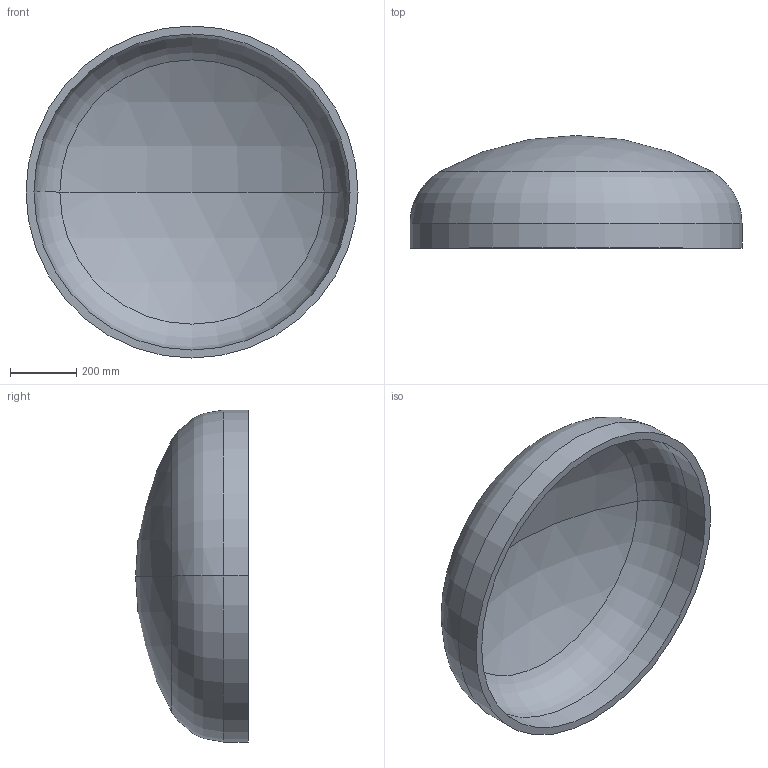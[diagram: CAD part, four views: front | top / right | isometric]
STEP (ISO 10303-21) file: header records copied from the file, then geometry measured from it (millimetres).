
FILE_DESCRIPTION (( 'STEP AP203' ), '1' );
FILE_NAME ('DIN 28013 Korbbogenform_-_Boden DIN 28013 - 1000 x 75 - I - s=24.step', '2016-07-01T08:45:01', ( '' ), ( '' ), 'SwSTEP 2.0', 'SolidWorks 2013', '' );
FILE_SCHEMA (( 'CONFIG_CONTROL_DESIGN' ));
Length unit declared in the file: millimetre
Products named in the file (1): DIN 28013 Korbbogenform_-_Boden DIN 28013 - 1000 x 75 - I - s=24
Bounding box: 1000 x 339.55 x 1000 mm (x, y, z)
Volume: 30848670.1 mm3; surface area: 2645516.8 mm2
Topology: 1 solids, 1 shells, 13 faces, 24 edges, 14 vertices
Faces by surface type: torus 4, cylinder 4, sphere 4, plane 1
Entity records: 407 total; most frequent: DIRECTION 72, CARTESIAN_POINT 52, ORIENTED_EDGE 48, AXIS2_PLACEMENT_3D 34, EDGE_CURVE 24, CIRCLE 20, VERTEX_POINT 14, EDGE_LOOP 14
